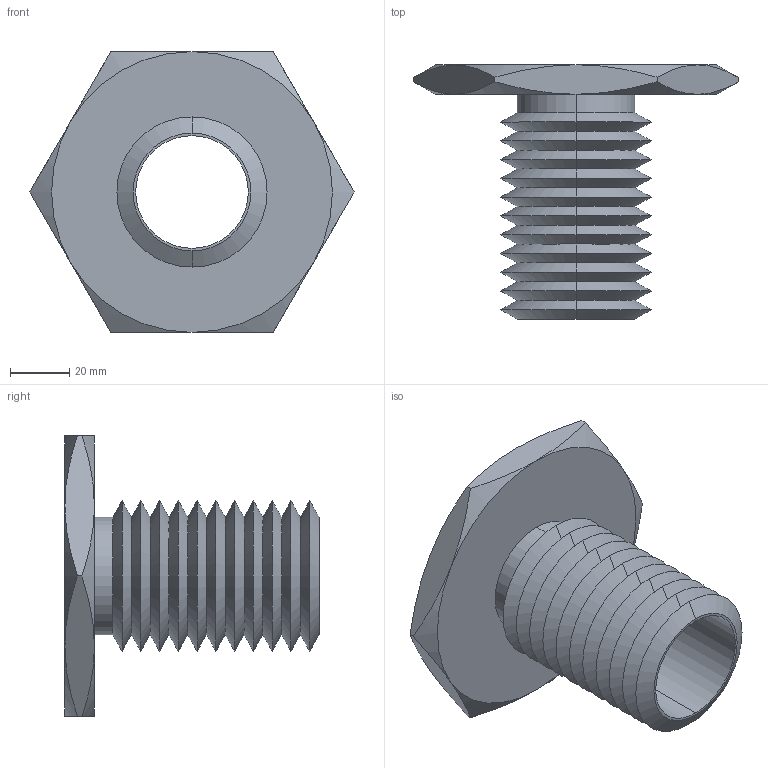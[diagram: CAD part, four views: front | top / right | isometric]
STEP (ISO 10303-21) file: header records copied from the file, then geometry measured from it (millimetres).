
FILE_DESCRIPTION (( 'STEP AP203' ), '1' );
FILE_NAME ('63302.W5200_1,50 UNC-6.step', '2013-12-08T11:51:35', ( 'User' ), ( '' ), 'SwSTEP 2.0', 'SolidWorks 2009', '' );
FILE_SCHEMA (( 'CONFIG_CONTROL_DESIGN' ));
Length unit declared in the file: millimetre
Products named in the file (1): 63302.W5200_1,50 UNC-6
Bounding box: 109.7 x 86 x 95 mm (x, y, z)
Volume: 97884 mm3; surface area: 46580.7 mm2
Topology: 1 solids, 1 shells, 71 faces, 146 edges, 78 vertices
Faces by surface type: cone 58, plane 9, cylinder 4
Entity records: 2071 total; most frequent: CARTESIAN_POINT 512, DIRECTION 332, ORIENTED_EDGE 292, EDGE_CURVE 146, AXIS2_PLACEMENT_3D 138, VERTEX_POINT 78, EDGE_LOOP 74, ADVANCED_FACE 71
